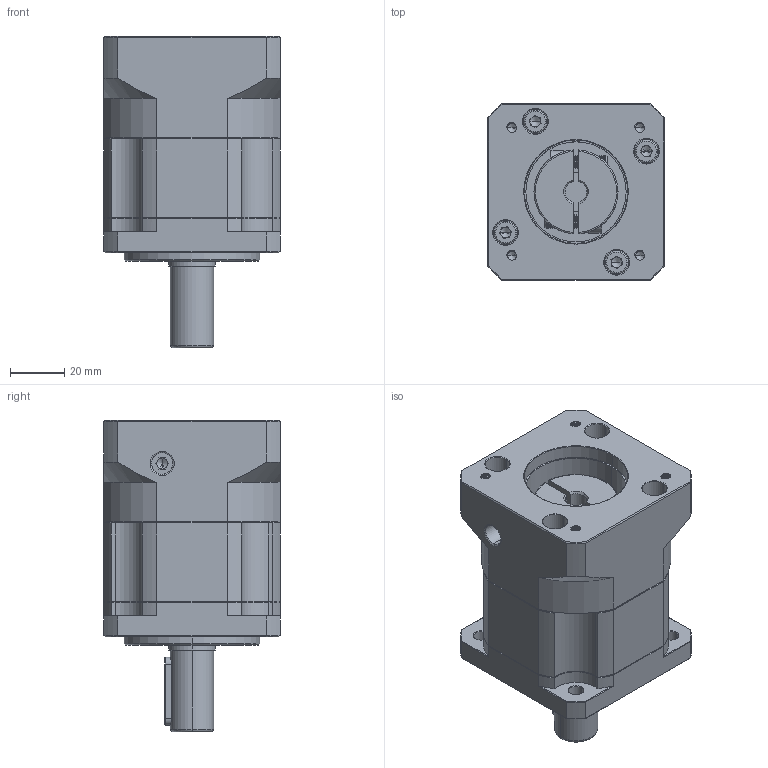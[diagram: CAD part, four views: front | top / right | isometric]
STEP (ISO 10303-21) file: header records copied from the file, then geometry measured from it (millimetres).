
FILE_DESCRIPTION (( 'STEP AP214' ), '1' );
FILE_NAME ('ZB60-D16-L1-8-38.1-47.14X47.14-M4.STEP', '2022-04-16T15:44:55', ( '' ), ( 'Microsoft' ), 'SwSTEP 2.0', 'SolidWorks 2016', '' );
FILE_SCHEMA (( 'AUTOMOTIVE_DESIGN' ));
Length unit declared in the file: millimetre
Products named in the file (1): ZB60-D16-L1-8-38.1-47.14X47.14-M4
Bounding box: 65 x 65 x 115 mm (x, y, z)
Volume: 275551.4 mm3; surface area: 54478.6 mm2
Topology: 6 solids, 6 shells, 1876 faces, 4981 edges, 3188 vertices
Faces by surface type: plane 879, cylinder 381, bspline 299, cone 283, torus 34
Entity records: 98911 total; most frequent: CARTESIAN_POINT 34084, ORIENTED_EDGE 9902, DIRECTION 8107, EDGE_CURVE 4951, VERTEX_POINT 3188, LINE 3013, VECTOR 3013, AXIS2_PLACEMENT_3D 2547
